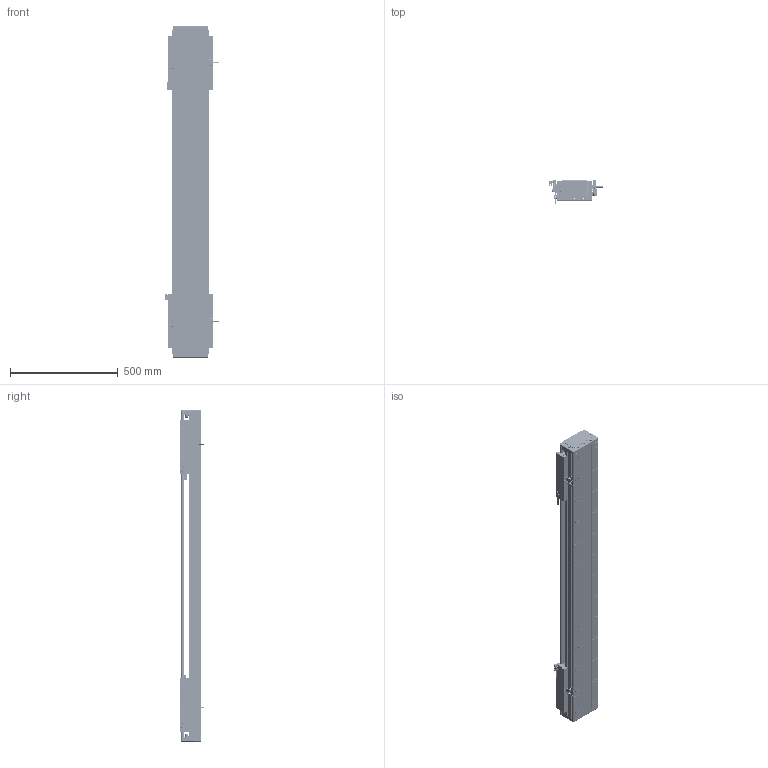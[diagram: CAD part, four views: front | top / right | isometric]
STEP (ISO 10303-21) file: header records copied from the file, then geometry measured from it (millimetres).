
FILE_DESCRIPTION (( 'STEP AP203' ), '1' );
FILE_NAME ('DA-C165-2-C3-T920-C010-0.2 直线电机.STEP', '2023-06-13T09:30:41', ( '微软用户' ), ( '微软中国' ), 'SwSTEP 2.0', 'SolidWorks 2019', '' );
FILE_SCHEMA (( 'CONFIG_CONTROL_DESIGN' ));
Length unit declared in the file: millimetre
Products named in the file (19): DA-C165-2-C3-T920-C010-0.2 眻盄萇儂; 葩璃 CKM03-W075-C1C2-TP-3.0^DA-C165-C3-T-C010-0.2-N 眻盄萇儂; 复件 XD-U-02L 磁栅尺^DA-C165-C3-T-C010-0.2-N 直线电机_T; 复件 DA95-HXJ-00 缓冲橡胶^DA-C165-C3-T-C010-0.2-N 直线电机; 复件 DKW-HXJ-JY-00 缓冲橡胶^DA-C165-C3-T-C010-0.2-N 直线电机; 复件 66338-1000-006-00 光电感应块^DA-C165-C3-T-C010-0.2-N 直线电机; 葩璃 PM-Y45^DA-C165-C3-T-C010-0.2-N 眻盄萇儂; IU-CU165-L 菁釱絳寢; 葩璃 CKM01-W075-TRL^DA-C165-C3-T-C010-0.2-N 眻盄萇儂; 珨极趙賑雄怢啣C3-wf; 复件 DA165-DG-H-N-00 端盖^DA-C165-C3-T-C010-0.2-N 直线电机; 葩璃 DA95-GT-T-00^IU-CU165-L 菁釱絳寢_T; 复件 DA165-T-002-00 盖板^DA-C165-C3-T-C010-0.2-N 直线电机_0840-002-00; 葩璃 PM-T45^DA-C165-C3-T-C010-0.2-N 眻盄萇儂; 复件 DA165-GYP-00 光电感应片^DA-C165-C3-T-C010-0.2-N 直线电机; 复件 CU165 底座^IU-CU165-L 底座导轨_L1500; 复件 DA126-GYP-ZJ-00 中间光电感应片^DA-C165-C3-T-C010-0.2-N 直线电机; 复件 六角薄螺母 M3^DA-C165-C3-T-C010-0.2-N 直线电机_GB_FASTENER_NUT_STNAB M3-C; 复件 DMA-010-0.2 读数头^DA-C165-C3-T-C010-0.2-N 直线电机
Assembly tree (40 placements, depth 3):
  DA-C165-2-C3-T920-C010-0.2 眻盄萇儂
    IU-CU165-L 菁釱絳寢
      复件 CU165 底座^IU-CU165-L 底座导轨_L1500
      葩璃 DA95-GT-T-00^IU-CU165-L 菁釱絳寢_T  x4
    复件 DA165-DG-H-N-00 端盖^DA-C165-C3-T-C010-0.2-N 直线电机  x2
    复件 DA95-HXJ-00 缓冲橡胶^DA-C165-C3-T-C010-0.2-N 直线电机  x4
    复件 DA165-T-002-00 盖板^DA-C165-C3-T-C010-0.2-N 直线电机_0840-002-00
    复件 XD-U-02L 磁栅尺^DA-C165-C3-T-C010-0.2-N 直线电机_T
    葩璃 PM-T45^DA-C165-C3-T-C010-0.2-N 眻盄萇儂  x4
    葩璃 CKM01-W075-TRL^DA-C165-C3-T-C010-0.2-N 眻盄萇儂
    复件 DMA-010-0.2 读数头^DA-C165-C3-T-C010-0.2-N 直线电机  x2
    复件 DA165-GYP-00 光电感应片^DA-C165-C3-T-C010-0.2-N 直线电机  x2
    复件 66338-1000-006-00 光电感应块^DA-C165-C3-T-C010-0.2-N 直线电机
    葩璃 PM-Y45^DA-C165-C3-T-C010-0.2-N 眻盄萇儂
    复件 DA126-GYP-ZJ-00 中间光电感应片^DA-C165-C3-T-C010-0.2-N 直线电机
    葩璃 CKM03-W075-C1C2-TP-3.0^DA-C165-C3-T-C010-0.2-N 眻盄萇儂  x2
    复件 DKW-HXJ-JY-00 缓冲橡胶^DA-C165-C3-T-C010-0.2-N 直线电机  x2
    复件 六角薄螺母 M3^DA-C165-C3-T-C010-0.2-N 直线电机_GB_FASTENER_NUT_STNAB M3-C  x8
    珨极趙賑雄怢啣C3-wf  x2
Bounding box: 247.2 x 111.45 x 1540 mm (x, y, z)
Volume: 13050068.4 mm3; surface area: 3392720.2 mm2
Topology: 117 solids, 217 shells, 5998 faces, 15857 edges, 9770 vertices
Faces by surface type: cylinder 2952, plane 1994, cone 956, torus 88, sphere 8
Entity records: 122238 total; most frequent: CARTESIAN_POINT 30046, DIRECTION 18883, ORIENTED_EDGE 18600, EDGE_CURVE 9300, AXIS2_PLACEMENT_3D 7131, VERTEX_POINT 6024, VECTOR 4621, LINE 4621
